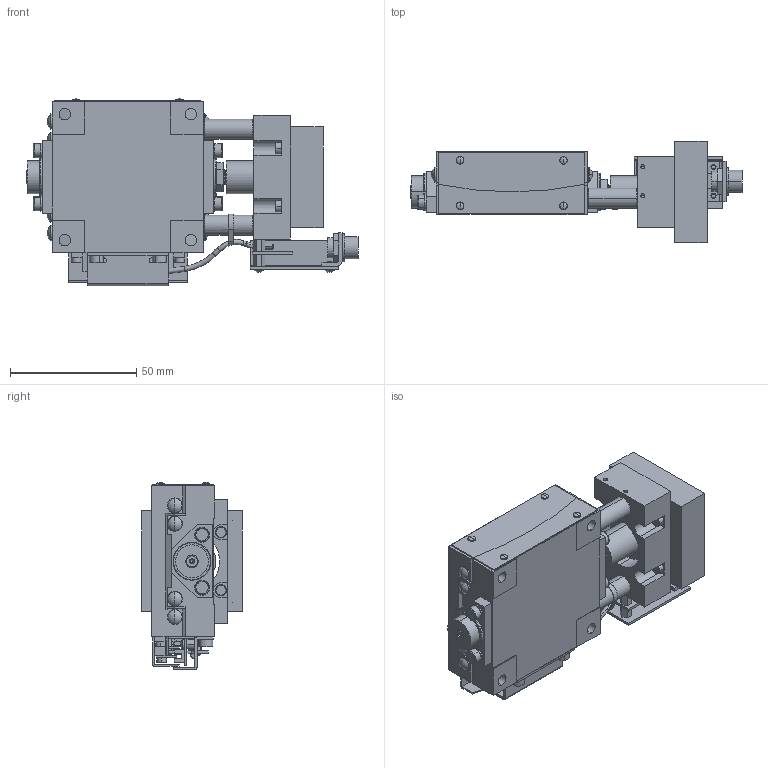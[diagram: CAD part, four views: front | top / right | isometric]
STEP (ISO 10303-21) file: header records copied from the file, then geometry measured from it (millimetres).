
FILE_DESCRIPTION (( 'STEP AP203' ), '1' );
FILE_NAME ('KGB06125MV-LS40.STEP', '2024-03-25T09:23:33', ( '' ), ( '' ), 'SwSTEP 2.0', 'SolidWorks 2017', '' );
FILE_SCHEMA (( 'CONFIG_CONTROL_DESIGN' ));
Length unit declared in the file: millimetre
Products named in the file (6): 60-M-6-L; 60-S38_C; KGB-BASE-06125-L; KGB06125MV-LS40; KGB-TOP-06125-L; KGB-60-S40_CADENAS
Assembly tree (5 placements, depth 2):
  KGB06125MV-LS40
    KGB-BASE-06125-L
    KGB-TOP-06125-L
    KGB-60-S40_CADENAS
    60-M-6-L
    60-S38_C
Bounding box: 131.7 x 40 x 74.3 mm (x, y, z)
Volume: 128259.5 mm3; surface area: 50777.5 mm2
Topology: 5 solids, 39 shells, 971 faces, 2293 edges, 1469 vertices
Faces by surface type: plane 394, cylinder 393, cone 96, torus 44, sphere 36, bspline 8
Entity records: 29413 total; most frequent: CARTESIAN_POINT 5587, DIRECTION 5213, ORIENTED_EDGE 4514, EDGE_CURVE 2257, AXIS2_PLACEMENT_3D 2027, VERTEX_POINT 1469, LINE 1159, VECTOR 1159
